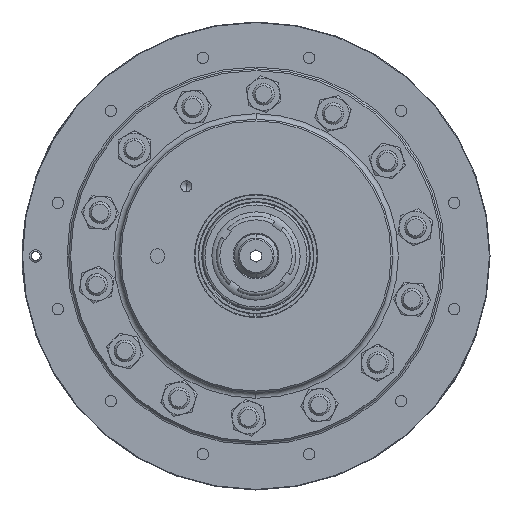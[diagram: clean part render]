
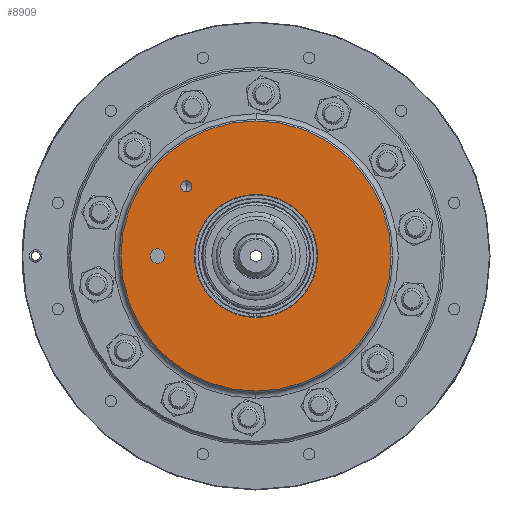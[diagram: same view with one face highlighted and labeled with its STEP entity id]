
A CAD part, left-side view. The second image highlights one B-rep face of the part: STEP entity #8909.
In plain terms, the highlighted planar face has unit normal (-1, 0, 0).
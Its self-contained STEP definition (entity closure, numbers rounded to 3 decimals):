
#907 = CARTESIAN_POINT ( 'NONE',  ( 1.905, 0., 27.178 ) ) ;
#1695 = ORIENTED_EDGE ( 'NONE', *, *, #10525, .T. ) ;
#2035 = DIRECTION ( 'NONE',  ( -1., 0., 0. ) ) ;
#2242 = CARTESIAN_POINT ( 'NONE',  ( 1.905, 30.712, 30.712 ) ) ;
#2654 = EDGE_LOOP ( 'NONE', ( #21262, #30578 ) ) ;
#2892 = DIRECTION ( 'NONE',  ( 0., 0., 1. ) ) ;
#5183 = DIRECTION ( 'NONE',  ( -1., 0., 0. ) ) ;
#5866 = EDGE_LOOP ( 'NONE', ( #16208, #8415 ) ) ;
#6167 = CIRCLE ( 'NONE', #10748, 59.563 ) ;
#6916 = VERTEX_POINT ( 'NONE', #907 ) ;
#7392 = ORIENTED_EDGE ( 'NONE', *, *, #11988, .F. ) ;
#7401 = CIRCLE ( 'NONE', #33634, 2.426 ) ;
#7421 = AXIS2_PLACEMENT_3D ( 'NONE', #24041, #5183, #11964 ) ;
#7577 = CARTESIAN_POINT ( 'NONE',  ( 1.905, 0., -59.563 ) ) ;
#8008 = VERTEX_POINT ( 'NONE', #22806 ) ;
#8202 = DIRECTION ( 'NONE',  ( -1., 0., 0. ) ) ;
#8415 = ORIENTED_EDGE ( 'NONE', *, *, #13170, .F. ) ;
#8909 = ADVANCED_FACE ( 'NONE', ( #14840, #14238, #26498, #11138 ), #12553, .T. ) ;
#8959 = DIRECTION ( 'NONE',  ( 0., 0., 1. ) ) ;
#10525 = EDGE_CURVE ( 'NONE', #27510, #21661, #12493, .T. ) ;
#10748 = AXIS2_PLACEMENT_3D ( 'NONE', #40165, #37292, #8959 ) ;
#11106 = DIRECTION ( 'NONE',  ( 0., 0., 1. ) ) ;
#11138 = FACE_BOUND ( 'NONE', #13660, .T. ) ;
#11891 = DIRECTION ( 'NONE',  ( 0., 0., 1. ) ) ;
#11964 = DIRECTION ( 'NONE',  ( 0., 0., 1. ) ) ;
#11988 = EDGE_CURVE ( 'NONE', #8008, #17650, #18590, .T. ) ;
#12493 = CIRCLE ( 'NONE', #22303, 3.175 ) ;
#12553 = PLANE ( 'NONE',  #36003 ) ;
#12620 = AXIS2_PLACEMENT_3D ( 'NONE', #23785, #2035, #20522 ) ;
#12769 = EDGE_CURVE ( 'NONE', #38549, #36812, #6167, .T. ) ;
#13170 = EDGE_CURVE ( 'NONE', #19260, #6916, #35013, .T. ) ;
#13660 = EDGE_LOOP ( 'NONE', ( #1695, #32765 ) ) ;
#13825 = ORIENTED_EDGE ( 'NONE', *, *, #36143, .F. ) ;
#14238 = FACE_OUTER_BOUND ( 'NONE', #2654, .T. ) ;
#14349 = CARTESIAN_POINT ( 'NONE',  ( 1.905, 0., 59.563 ) ) ;
#14840 = FACE_BOUND ( 'NONE', #35586, .T. ) ;
#15381 = AXIS2_PLACEMENT_3D ( 'NONE', #17240, #17033, #11106 ) ;
#16208 = ORIENTED_EDGE ( 'NONE', *, *, #21590, .F. ) ;
#17033 = DIRECTION ( 'NONE',  ( -1., 0., 0. ) ) ;
#17240 = CARTESIAN_POINT ( 'NONE',  ( 1.905, 0., 0. ) ) ;
#17650 = VERTEX_POINT ( 'NONE', #32715 ) ;
#18590 = CIRCLE ( 'NONE', #7421, 2.426 ) ;
#19246 = DIRECTION ( 'NONE',  ( 0., 0., 1. ) ) ;
#19260 = VERTEX_POINT ( 'NONE', #26156 ) ;
#20522 = DIRECTION ( 'NONE',  ( 0., 0., 1. ) ) ;
#21262 = ORIENTED_EDGE ( 'NONE', *, *, #39620, .T. ) ;
#21498 = CARTESIAN_POINT ( 'NONE',  ( 1.905, 43.434, -3.175 ) ) ;
#21514 = DIRECTION ( 'NONE',  ( 0., 0., 1. ) ) ;
#21560 = DIRECTION ( 'NONE',  ( 0., 0., 1. ) ) ;
#21590 = EDGE_CURVE ( 'NONE', #6916, #19260, #30996, .T. ) ;
#21661 = VERTEX_POINT ( 'NONE', #21498 ) ;
#22121 = CARTESIAN_POINT ( 'NONE',  ( 1.905, 43.434, 0. ) ) ;
#22303 = AXIS2_PLACEMENT_3D ( 'NONE', #22121, #37914, #19246 ) ;
#22806 = CARTESIAN_POINT ( 'NONE',  ( 1.905, 30.712, 33.138 ) ) ;
#23785 = CARTESIAN_POINT ( 'NONE',  ( 1.905, 0., 0. ) ) ;
#24041 = CARTESIAN_POINT ( 'NONE',  ( 1.905, 30.712, 30.712 ) ) ;
#25249 = CARTESIAN_POINT ( 'NONE',  ( 1.905, 43.434, 0. ) ) ;
#25709 = CIRCLE ( 'NONE', #12620, 59.563 ) ;
#26050 = CARTESIAN_POINT ( 'NONE',  ( 1.905, 43.434, 3.175 ) ) ;
#26156 = CARTESIAN_POINT ( 'NONE',  ( 1.905, 0., -27.178 ) ) ;
#26498 = FACE_BOUND ( 'NONE', #5866, .T. ) ;
#27510 = VERTEX_POINT ( 'NONE', #26050 ) ;
#27514 = CARTESIAN_POINT ( 'NONE',  ( 1.905, 59.563, 0. ) ) ;
#30578 = ORIENTED_EDGE ( 'NONE', *, *, #12769, .T. ) ;
#30996 = CIRCLE ( 'NONE', #38946, 27.178 ) ;
#31193 = DIRECTION ( 'NONE',  ( 1., 0., 0. ) ) ;
#32715 = CARTESIAN_POINT ( 'NONE',  ( 1.905, 30.712, 28.287 ) ) ;
#32765 = ORIENTED_EDGE ( 'NONE', *, *, #35099, .T. ) ;
#32947 = CIRCLE ( 'NONE', #40174, 3.175 ) ;
#33617 = DIRECTION ( 'NONE',  ( -1., 0., 0. ) ) ;
#33634 = AXIS2_PLACEMENT_3D ( 'NONE', #2242, #8202, #21514 ) ;
#33684 = DIRECTION ( 'NONE',  ( -1., 0., 0. ) ) ;
#35013 = CIRCLE ( 'NONE', #15381, 27.178 ) ;
#35099 = EDGE_CURVE ( 'NONE', #21661, #27510, #32947, .T. ) ;
#35586 = EDGE_LOOP ( 'NONE', ( #7392, #13825 ) ) ;
#36003 = AXIS2_PLACEMENT_3D ( 'NONE', #27514, #33684, #21560 ) ;
#36143 = EDGE_CURVE ( 'NONE', #17650, #8008, #7401, .T. ) ;
#36812 = VERTEX_POINT ( 'NONE', #7577 ) ;
#37292 = DIRECTION ( 'NONE',  ( -1., 0., 0. ) ) ;
#37914 = DIRECTION ( 'NONE',  ( 1., 0., 0. ) ) ;
#38549 = VERTEX_POINT ( 'NONE', #14349 ) ;
#38946 = AXIS2_PLACEMENT_3D ( 'NONE', #39363, #33617, #11891 ) ;
#39363 = CARTESIAN_POINT ( 'NONE',  ( 1.905, 0., 0. ) ) ;
#39620 = EDGE_CURVE ( 'NONE', #36812, #38549, #25709, .T. ) ;
#40165 = CARTESIAN_POINT ( 'NONE',  ( 1.905, 0., 0. ) ) ;
#40174 = AXIS2_PLACEMENT_3D ( 'NONE', #25249, #31193, #2892 ) ;
